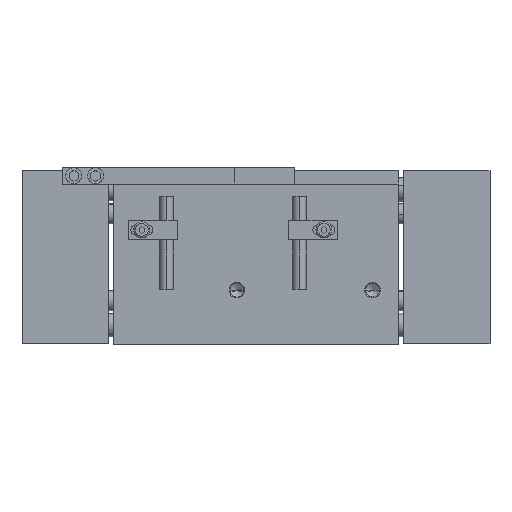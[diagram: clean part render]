
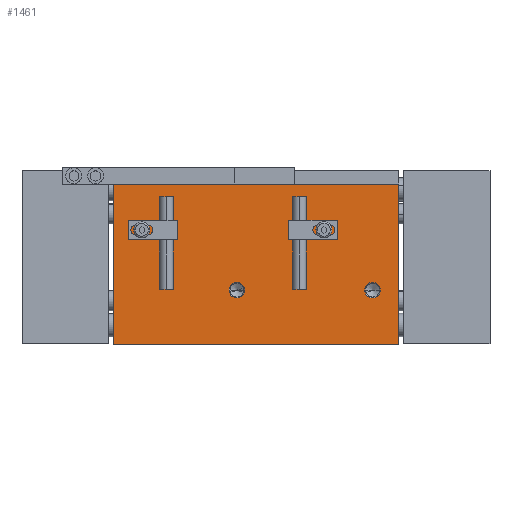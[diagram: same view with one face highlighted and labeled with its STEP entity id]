
A CAD part, top view. The second image highlights one B-rep face of the part: STEP entity #1461.
In plain terms, the highlighted planar face has unit normal (0, 0, 1).
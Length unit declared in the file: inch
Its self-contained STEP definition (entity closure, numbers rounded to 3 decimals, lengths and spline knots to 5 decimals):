
#80 = EDGE_CURVE ( 'NONE', #3790, #2136, #8545, .T. ) ;
#83 = CARTESIAN_POINT ( 'NONE',  ( -1.64, 1., 0.75 ) ) ;
#143 = LINE ( 'NONE', #1173, #1728 ) ;
#173 = CARTESIAN_POINT ( 'NONE',  ( -1.64, 1., 0.75 ) ) ;
#271 = FACE_BOUND ( 'NONE', #573, .T. ) ;
#437 = AXIS2_PLACEMENT_3D ( 'NONE', #3993, #8767, #4685 ) ;
#451 = VECTOR ( 'NONE', #779, 39.37008 ) ;
#493 = AXIS2_PLACEMENT_3D ( 'NONE', #1176, #5949, #1859 ) ;
#573 = EDGE_LOOP ( 'NONE', ( #5461, #6918 ) ) ;
#779 = DIRECTION ( 'NONE',  ( 1., 0., 0. ) ) ;
#1173 = CARTESIAN_POINT ( 'NONE',  ( -1.64, -1., 0.75 ) ) ;
#1176 = CARTESIAN_POINT ( 'NONE',  ( 1.34, -0.38, 0.75 ) ) ;
#1376 = EDGE_CURVE ( 'NONE', #3643, #5738, #4100, .T. ) ;
#1410 = CARTESIAN_POINT ( 'NONE',  ( 1.2505, -0.38, 0.75 ) ) ;
#1438 = CARTESIAN_POINT ( 'NONE',  ( 1.4295, -0.38, 0.75 ) ) ;
#1461 = ADVANCED_FACE ( 'NONE', ( #1856, #271, #7322 ), #4171, .F. ) ;
#1728 = VECTOR ( 'NONE', #5948, 39.37008 ) ;
#1856 = FACE_BOUND ( 'NONE', #7595, .T. ) ;
#1859 = DIRECTION ( 'NONE',  ( -1., 0., 0. ) ) ;
#1961 = DIRECTION ( 'NONE',  ( 0., 0., -1. ) ) ;
#2134 = DIRECTION ( 'NONE',  ( -1., 0., 0. ) ) ;
#2136 = VERTEX_POINT ( 'NONE', #1410 ) ;
#2163 = DIRECTION ( 'NONE',  ( -1., 0., 0. ) ) ;
#2258 = LINE ( 'NONE', #2782, #451 ) ;
#2489 = AXIS2_PLACEMENT_3D ( 'NONE', #6047, #1961, #2163 ) ;
#2598 = DIRECTION ( 'NONE',  ( 0., 1., 0. ) ) ;
#2657 = CIRCLE ( 'NONE', #3131, 0.0895 ) ;
#2776 = EDGE_CURVE ( 'NONE', #8516, #3643, #143, .T. ) ;
#2779 = ORIENTED_EDGE ( 'NONE', *, *, #4762, .F. ) ;
#2782 = CARTESIAN_POINT ( 'NONE',  ( -1.64, 0.84, 0.75 ) ) ;
#2904 = DIRECTION ( 'NONE',  ( 0., 0., -1. ) ) ;
#3088 = EDGE_CURVE ( 'NONE', #4445, #8516, #6424, .T. ) ;
#3131 = AXIS2_PLACEMENT_3D ( 'NONE', #7010, #2904, #7693 ) ;
#3227 = ORIENTED_EDGE ( 'NONE', *, *, #2776, .T. ) ;
#3326 = ORIENTED_EDGE ( 'NONE', *, *, #3088, .T. ) ;
#3385 = EDGE_CURVE ( 'NONE', #5952, #7561, #2657, .T. ) ;
#3643 = VERTEX_POINT ( 'NONE', #7974 ) ;
#3790 = VERTEX_POINT ( 'NONE', #1438 ) ;
#3897 = CARTESIAN_POINT ( 'NONE',  ( -0.3095, -0.38, 0.75 ) ) ;
#3993 = CARTESIAN_POINT ( 'NONE',  ( 1.34, -0.38, 0.75 ) ) ;
#4034 = EDGE_CURVE ( 'NONE', #2136, #3790, #7273, .T. ) ;
#4100 = LINE ( 'NONE', #6673, #5919 ) ;
#4171 = PLANE ( 'NONE',  #7098 ) ;
#4445 = VERTEX_POINT ( 'NONE', #6592 ) ;
#4685 = DIRECTION ( 'NONE',  ( -1., 0., 0. ) ) ;
#4762 = EDGE_CURVE ( 'NONE', #4445, #5738, #2258, .T. ) ;
#4942 = DIRECTION ( 'NONE',  ( 0., -1., 0. ) ) ;
#5461 = ORIENTED_EDGE ( 'NONE', *, *, #80, .T. ) ;
#5738 = VERTEX_POINT ( 'NONE', #5842 ) ;
#5842 = CARTESIAN_POINT ( 'NONE',  ( 1.64, 0.84, 0.75 ) ) ;
#5919 = VECTOR ( 'NONE', #2598, 39.37008 ) ;
#5948 = DIRECTION ( 'NONE',  ( 1., 0., 0. ) ) ;
#5949 = DIRECTION ( 'NONE',  ( 0., 0., -1. ) ) ;
#5952 = VERTEX_POINT ( 'NONE', #7317 ) ;
#6047 = CARTESIAN_POINT ( 'NONE',  ( -0.22, -0.38, 0.75 ) ) ;
#6086 = EDGE_LOOP ( 'NONE', ( #7363, #2779, #3326, #3227 ) ) ;
#6204 = VECTOR ( 'NONE', #4942, 39.37008 ) ;
#6233 = DIRECTION ( 'NONE',  ( 0., 0., -1. ) ) ;
#6391 = ORIENTED_EDGE ( 'NONE', *, *, #7603, .T. ) ;
#6424 = LINE ( 'NONE', #173, #6204 ) ;
#6592 = CARTESIAN_POINT ( 'NONE',  ( -1.64, 0.84, 0.75 ) ) ;
#6673 = CARTESIAN_POINT ( 'NONE',  ( 1.64, -1., 0.75 ) ) ;
#6918 = ORIENTED_EDGE ( 'NONE', *, *, #4034, .T. ) ;
#7010 = CARTESIAN_POINT ( 'NONE',  ( -0.22, -0.38, 0.75 ) ) ;
#7056 = CARTESIAN_POINT ( 'NONE',  ( -1.64, -1., 0.75 ) ) ;
#7098 = AXIS2_PLACEMENT_3D ( 'NONE', #83, #6233, #2134 ) ;
#7135 = CIRCLE ( 'NONE', #2489, 0.0895 ) ;
#7273 = CIRCLE ( 'NONE', #437, 0.0895 ) ;
#7317 = CARTESIAN_POINT ( 'NONE',  ( -0.1305, -0.38, 0.75 ) ) ;
#7322 = FACE_OUTER_BOUND ( 'NONE', #6086, .T. ) ;
#7363 = ORIENTED_EDGE ( 'NONE', *, *, #1376, .T. ) ;
#7561 = VERTEX_POINT ( 'NONE', #3897 ) ;
#7595 = EDGE_LOOP ( 'NONE', ( #7720, #6391 ) ) ;
#7603 = EDGE_CURVE ( 'NONE', #7561, #5952, #7135, .T. ) ;
#7693 = DIRECTION ( 'NONE',  ( -1., 0., 0. ) ) ;
#7720 = ORIENTED_EDGE ( 'NONE', *, *, #3385, .T. ) ;
#7974 = CARTESIAN_POINT ( 'NONE',  ( 1.64, -1., 0.75 ) ) ;
#8516 = VERTEX_POINT ( 'NONE', #7056 ) ;
#8545 = CIRCLE ( 'NONE', #493, 0.0895 ) ;
#8767 = DIRECTION ( 'NONE',  ( 0., 0., -1. ) ) ;
